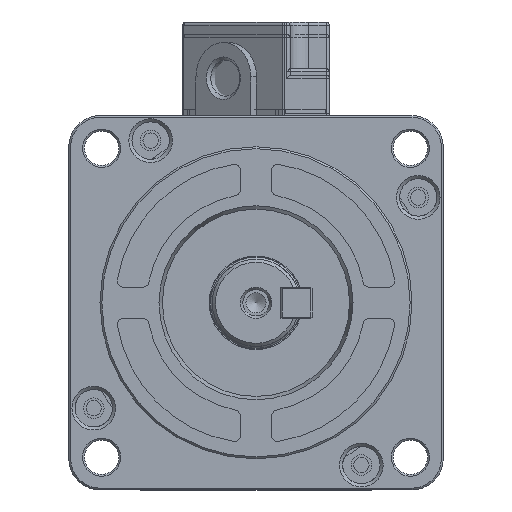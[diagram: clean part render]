
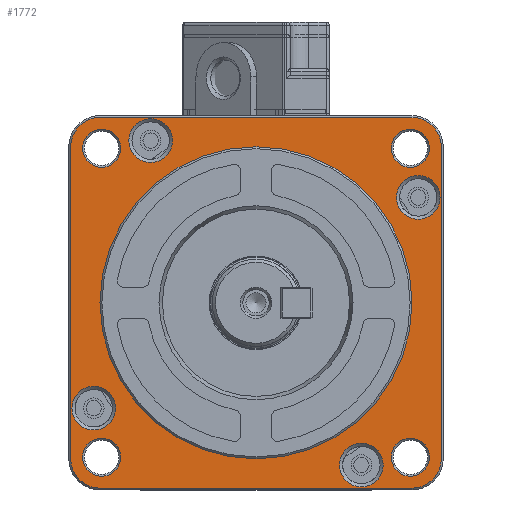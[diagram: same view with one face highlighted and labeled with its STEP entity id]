
A CAD part, left-side view. The second image highlights one B-rep face of the part: STEP entity #1772.
In plain terms, the highlighted planar face has unit normal (-1, 0, 0).
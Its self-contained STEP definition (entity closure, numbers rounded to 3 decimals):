
#1772 = ADVANCED_FACE( '', ( #4403, #4404, #4405, #4406, #4407, #4408, #4409, #4410, #4411, #4412 ), #4413, .T. );
#4403 = FACE_BOUND( '', #9265, .T. );
#4404 = FACE_BOUND( '', #9266, .T. );
#4405 = FACE_BOUND( '', #9267, .T. );
#4406 = FACE_BOUND( '', #9268, .T. );
#4407 = FACE_OUTER_BOUND( '', #9269, .T. );
#4408 = FACE_BOUND( '', #9270, .T. );
#4409 = FACE_BOUND( '', #9271, .T. );
#4410 = FACE_BOUND( '', #9272, .T. );
#4411 = FACE_BOUND( '', #9273, .T. );
#4412 = FACE_BOUND( '', #9274, .T. );
#4413 = PLANE( '', #9275 );
#9265 = EDGE_LOOP( '', ( #20431 ) );
#9266 = EDGE_LOOP( '', ( #20432 ) );
#9267 = EDGE_LOOP( '', ( #20433 ) );
#9268 = EDGE_LOOP( '', ( #20434 ) );
#9269 = EDGE_LOOP( '', ( #20435, #20436, #20437, #20438, #20439, #20440, #20441, #20442 ) );
#9270 = EDGE_LOOP( '', ( #20443 ) );
#9271 = EDGE_LOOP( '', ( #20444 ) );
#9272 = EDGE_LOOP( '', ( #20445 ) );
#9273 = EDGE_LOOP( '', ( #20446 ) );
#9274 = EDGE_LOOP( '', ( #20447 ) );
#9275 = AXIS2_PLACEMENT_3D( '', #20448, #20449, #20450 );
#20431 = ORIENTED_EDGE( '', *, *, #29421, .T. );
#20432 = ORIENTED_EDGE( '', *, *, #29422, .T. );
#20433 = ORIENTED_EDGE( '', *, *, #29423, .T. );
#20434 = ORIENTED_EDGE( '', *, *, #29424, .T. );
#20435 = ORIENTED_EDGE( '', *, *, #29425, .F. );
#20436 = ORIENTED_EDGE( '', *, *, #29426, .F. );
#20437 = ORIENTED_EDGE( '', *, *, #29427, .F. );
#20438 = ORIENTED_EDGE( '', *, *, #29428, .F. );
#20439 = ORIENTED_EDGE( '', *, *, #29429, .F. );
#20440 = ORIENTED_EDGE( '', *, *, #29430, .F. );
#20441 = ORIENTED_EDGE( '', *, *, #29431, .F. );
#20442 = ORIENTED_EDGE( '', *, *, #29432, .F. );
#20443 = ORIENTED_EDGE( '', *, *, #29433, .F. );
#20444 = ORIENTED_EDGE( '', *, *, #29434, .F. );
#20445 = ORIENTED_EDGE( '', *, *, #29435, .F. );
#20446 = ORIENTED_EDGE( '', *, *, #29436, .F. );
#20447 = ORIENTED_EDGE( '', *, *, #29437, .T. );
#20448 = CARTESIAN_POINT( '', ( 3., 0., 12.5 ) );
#20449 = DIRECTION( '', ( -1., 0., 0. ) );
#20450 = DIRECTION( '', ( 0., -1., 0. ) );
#29421 = EDGE_CURVE( '', #33723, #33723, #33724, .F. );
#29422 = EDGE_CURVE( '', #33725, #33725, #33726, .F. );
#29423 = EDGE_CURVE( '', #33727, #33727, #33728, .F. );
#29424 = EDGE_CURVE( '', #33729, #33729, #33730, .F. );
#29425 = EDGE_CURVE( '', #33731, #33732, #33733, .F. );
#29426 = EDGE_CURVE( '', #33734, #33731, #33735, .F. );
#29427 = EDGE_CURVE( '', #33736, #33734, #33737, .F. );
#29428 = EDGE_CURVE( '', #33738, #33736, #33739, .F. );
#29429 = EDGE_CURVE( '', #33740, #33738, #33741, .F. );
#29430 = EDGE_CURVE( '', #33742, #33740, #33743, .F. );
#29431 = EDGE_CURVE( '', #33744, #33742, #33745, .F. );
#29432 = EDGE_CURVE( '', #33732, #33744, #33746, .F. );
#29433 = EDGE_CURVE( '', #33747, #33747, #33748, .T. );
#29434 = EDGE_CURVE( '', #33749, #33749, #33750, .T. );
#29435 = EDGE_CURVE( '', #33751, #33751, #33752, .T. );
#29436 = EDGE_CURVE( '', #33753, #33753, #33754, .T. );
#29437 = EDGE_CURVE( '', #33755, #33755, #33756, .T. );
#33723 = VERTEX_POINT( '', #41440 );
#33724 = CIRCLE( '', #41441, 3.5 );
#33725 = VERTEX_POINT( '', #41442 );
#33726 = CIRCLE( '', #41443, 3.5 );
#33727 = VERTEX_POINT( '', #41444 );
#33728 = CIRCLE( '', #41445, 3.5 );
#33729 = VERTEX_POINT( '', #41446 );
#33730 = CIRCLE( '', #41447, 3.5 );
#33731 = VERTEX_POINT( '', #41448 );
#33732 = VERTEX_POINT( '', #41449 );
#33733 = CIRCLE( '', #41450, 4.7 );
#33734 = VERTEX_POINT( '', #41451 );
#33735 = LINE( '', #41452, #41453 );
#33736 = VERTEX_POINT( '', #41454 );
#33737 = CIRCLE( '', #41455, 4.7 );
#33738 = VERTEX_POINT( '', #41456 );
#33739 = LINE( '', #41457, #41458 );
#33740 = VERTEX_POINT( '', #41459 );
#33741 = CIRCLE( '', #41460, 4.7 );
#33742 = VERTEX_POINT( '', #41461 );
#33743 = LINE( '', #41462, #41463 );
#33744 = VERTEX_POINT( '', #41464 );
#33745 = CIRCLE( '', #41465, 4.7 );
#33746 = LINE( '', #41466, #41467 );
#33747 = VERTEX_POINT( '', #41468 );
#33748 = CIRCLE( '', #41469, 3.05 );
#33749 = VERTEX_POINT( '', #41470 );
#33750 = CIRCLE( '', #41471, 3.05 );
#33751 = VERTEX_POINT( '', #41472 );
#33752 = CIRCLE( '', #41473, 3.05 );
#33753 = VERTEX_POINT( '', #41474 );
#33754 = CIRCLE( '', #41475, 3.05 );
#33755 = VERTEX_POINT( '', #41476 );
#33756 = CIRCLE( '', #41477, 25. );
#41440 = CARTESIAN_POINT( '', ( 3., 22.499, -16.884 ) );
#41441 = AXIS2_PLACEMENT_3D( '', #54350, #54351, #54352 );
#41442 = CARTESIAN_POINT( '', ( 3., -20.384, -25.999 ) );
#41443 = AXIS2_PLACEMENT_3D( '', #54353, #54354, #54355 );
#41444 = CARTESIAN_POINT( '', ( 3., -29.499, 16.884 ) );
#41445 = AXIS2_PLACEMENT_3D( '', #54356, #54357, #54358 );
#41446 = CARTESIAN_POINT( '', ( 3., 13.384, 25.999 ) );
#41447 = AXIS2_PLACEMENT_3D( '', #54359, #54360, #54361 );
#41448 = CARTESIAN_POINT( '', ( 3., 29.7, 25. ) );
#41449 = CARTESIAN_POINT( '', ( 3., 25., 29.7 ) );
#41450 = AXIS2_PLACEMENT_3D( '', #54362, #54363, #54364 );
#41451 = CARTESIAN_POINT( '', ( 3., 29.7, -25. ) );
#41452 = CARTESIAN_POINT( '', ( 3., 29.7, 30. ) );
#41453 = VECTOR( '', #54365, 1000. );
#41454 = CARTESIAN_POINT( '', ( 3., 25., -29.7 ) );
#41455 = AXIS2_PLACEMENT_3D( '', #54366, #54367, #54368 );
#41456 = CARTESIAN_POINT( '', ( 3., -25., -29.7 ) );
#41457 = CARTESIAN_POINT( '', ( 3., 30., -29.7 ) );
#41458 = VECTOR( '', #54369, 1000. );
#41459 = CARTESIAN_POINT( '', ( 3., -29.7, -25. ) );
#41460 = AXIS2_PLACEMENT_3D( '', #54370, #54371, #54372 );
#41461 = CARTESIAN_POINT( '', ( 3., -29.7, 25. ) );
#41462 = CARTESIAN_POINT( '', ( 3., -29.7, -30. ) );
#41463 = VECTOR( '', #54373, 1000. );
#41464 = CARTESIAN_POINT( '', ( 3., -25., 29.7 ) );
#41465 = AXIS2_PLACEMENT_3D( '', #54374, #54375, #54376 );
#41466 = CARTESIAN_POINT( '', ( 3., -30., 29.7 ) );
#41467 = VECTOR( '', #54377, 1000. );
#41468 = CARTESIAN_POINT( '', ( 3., 21.699, -24.749 ) );
#41469 = AXIS2_PLACEMENT_3D( '', #54378, #54379, #54380 );
#41470 = CARTESIAN_POINT( '', ( 3., 21.699, 24.749 ) );
#41471 = AXIS2_PLACEMENT_3D( '', #54381, #54382, #54383 );
#41472 = CARTESIAN_POINT( '', ( 3., -27.799, 24.749 ) );
#41473 = AXIS2_PLACEMENT_3D( '', #54384, #54385, #54386 );
#41474 = CARTESIAN_POINT( '', ( 3., -27.799, -24.749 ) );
#41475 = AXIS2_PLACEMENT_3D( '', #54387, #54388, #54389 );
#41476 = CARTESIAN_POINT( '', ( 3., 0., 25. ) );
#41477 = AXIS2_PLACEMENT_3D( '', #54390, #54391, #54392 );
#54350 = CARTESIAN_POINT( '', ( 3., 25.999, -16.884 ) );
#54351 = DIRECTION( '', ( -1., 0., 0. ) );
#54352 = DIRECTION( '', ( 0., -1., 0. ) );
#54353 = CARTESIAN_POINT( '', ( 3., -16.884, -25.999 ) );
#54354 = DIRECTION( '', ( -1., 0., 0. ) );
#54355 = DIRECTION( '', ( 0., -1., 0. ) );
#54356 = CARTESIAN_POINT( '', ( 3., -25.999, 16.884 ) );
#54357 = DIRECTION( '', ( -1., 0., 0. ) );
#54358 = DIRECTION( '', ( 0., -1., 0. ) );
#54359 = CARTESIAN_POINT( '', ( 3., 16.884, 25.999 ) );
#54360 = DIRECTION( '', ( -1., 0., 0. ) );
#54361 = DIRECTION( '', ( 0., -1., 0. ) );
#54362 = CARTESIAN_POINT( '', ( 3., 25., 25. ) );
#54363 = DIRECTION( '', ( -1., 0., 0. ) );
#54364 = DIRECTION( '', ( 0., -1., 0. ) );
#54365 = DIRECTION( '', ( 0., 0., -1. ) );
#54366 = CARTESIAN_POINT( '', ( 3., 25., -25. ) );
#54367 = DIRECTION( '', ( -1., 0., 0. ) );
#54368 = DIRECTION( '', ( 0., -1., 0. ) );
#54369 = DIRECTION( '', ( 0., -1., 0. ) );
#54370 = CARTESIAN_POINT( '', ( 3., -25., -25. ) );
#54371 = DIRECTION( '', ( -1., 0., 0. ) );
#54372 = DIRECTION( '', ( 0., -1., 0. ) );
#54373 = DIRECTION( '', ( 0., 0., 1. ) );
#54374 = CARTESIAN_POINT( '', ( 3., -25., 25. ) );
#54375 = DIRECTION( '', ( -1., 0., 0. ) );
#54376 = DIRECTION( '', ( 0., -1., 0. ) );
#54377 = DIRECTION( '', ( 0., 1., 0. ) );
#54378 = CARTESIAN_POINT( '', ( 3., 24.749, -24.749 ) );
#54379 = DIRECTION( '', ( -1., 0., 0. ) );
#54380 = DIRECTION( '', ( 0., -1., 0. ) );
#54381 = CARTESIAN_POINT( '', ( 3., 24.749, 24.749 ) );
#54382 = DIRECTION( '', ( -1., 0., 0. ) );
#54383 = DIRECTION( '', ( 0., -1., 0. ) );
#54384 = CARTESIAN_POINT( '', ( 3., -24.749, 24.749 ) );
#54385 = DIRECTION( '', ( -1., 0., 0. ) );
#54386 = DIRECTION( '', ( 0., -1., 0. ) );
#54387 = CARTESIAN_POINT( '', ( 3., -24.749, -24.749 ) );
#54388 = DIRECTION( '', ( -1., 0., 0. ) );
#54389 = DIRECTION( '', ( 0., -1., 0. ) );
#54390 = CARTESIAN_POINT( '', ( 3., 0., 0. ) );
#54391 = DIRECTION( '', ( 1., 0., 0. ) );
#54392 = DIRECTION( '', ( 0., 0., 1. ) );
